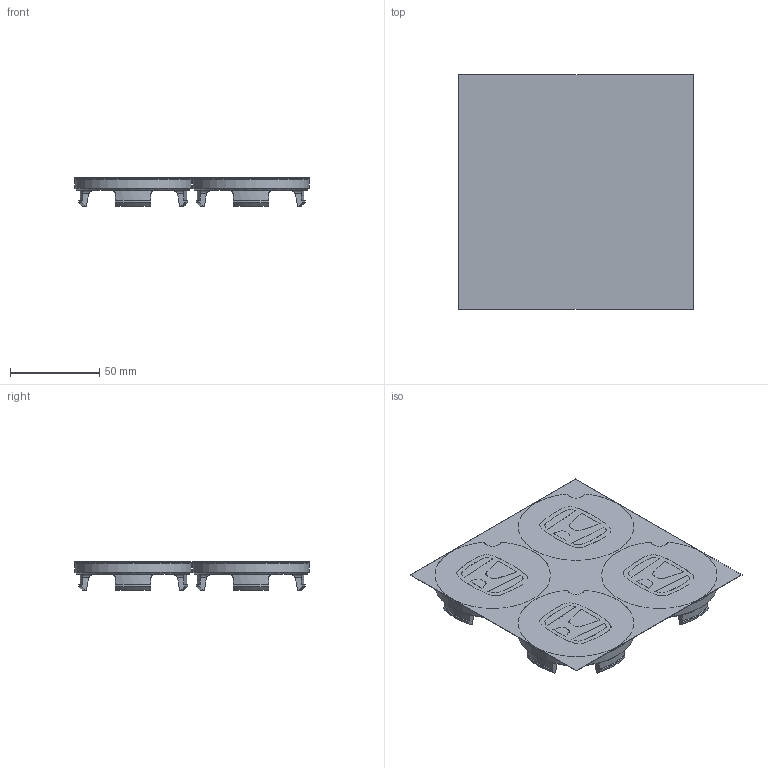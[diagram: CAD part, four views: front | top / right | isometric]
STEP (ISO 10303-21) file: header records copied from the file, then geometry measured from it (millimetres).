
FILE_DESCRIPTION(/* description */ (''),/* implementation_level */ '2;1');
FILE_NAME(/* name */ 'Honda_Cap 2.stp',/* time_stamp */ '2019-07-29T12:43:07+03:00',/* author */ (''),/* organization */ (''),/* preprocessor_version */ 'ST-DEVELOPER v16.7',/* originating_system */ 'SIEMENS PLM Software NX 12.0',/* authorisation */ '');
FILE_SCHEMA (('AUTOMOTIVE_DESIGN { 1 0 10303 214 3 1 1 1 }'));
Length unit declared in the file: millimetre
Products named in the file (1): usei1C84EACEe625
Bounding box: 131.5 x 131.5 x 16 mm (x, y, z)
Volume: 94305.9 mm3; surface area: 55491.3 mm2
Topology: 1 solids, 5 shells, 362 faces, 940 edges, 600 vertices
Faces by surface type: plane 102, cylinder 80, cone 52, torus 40, extrusion 40, bspline 40, sphere 8
Entity records: 16128 total; most frequent: CARTESIAN_POINT 8012, ORIENTED_EDGE 1848, DIRECTION 1332, EDGE_CURVE 924, VERTEX_POINT 600, AXIS2_PLACEMENT_3D 504, B_SPLINE_CURVE_WITH_KNOTS 460, EDGE_LOOP 422
